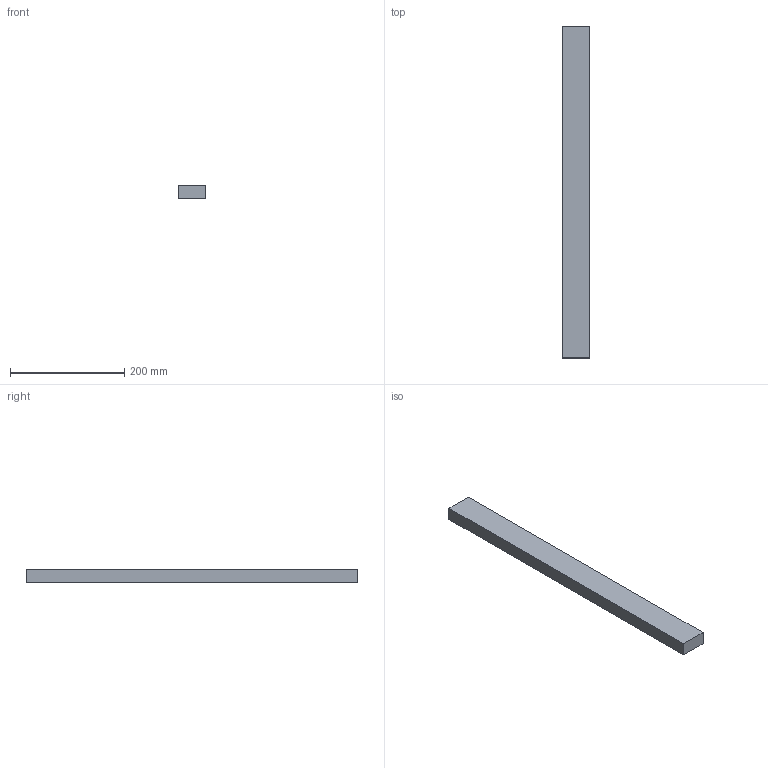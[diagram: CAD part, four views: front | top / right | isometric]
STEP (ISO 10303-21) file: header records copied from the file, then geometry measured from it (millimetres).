
FILE_DESCRIPTION (( 'STEP AP203' ), '1' );
FILE_NAME ('Tasseau_582_Deflecteur.STEP', '2026-06-24T07:29:50', ( '' ), ( '' ), 'SwSTEP 2.0', 'SolidWorks 2024', '' );
FILE_SCHEMA (( 'CONFIG_CONTROL_DESIGN' ));
Length unit declared in the file: millimetre
Products named in the file (1): Tasseau_582_Deflecteur_Brut
Bounding box: 48 x 582 x 24 mm (x, y, z)
Volume: 670464 mm3; surface area: 86112 mm2
Topology: 1 solids, 1 shells, 6 faces, 12 edges, 8 vertices
Faces by surface type: plane 6
Entity records: 231 total; most frequent: CARTESIAN_POINT 27, DIRECTION 26, ORIENTED_EDGE 24, EDGE_CURVE 12, VECTOR 12, LINE 12, PERSON_AND_ORGANIZATION 8, VERTEX_POINT 8
